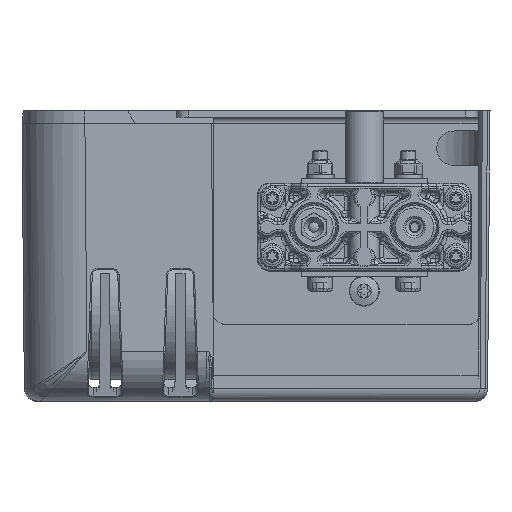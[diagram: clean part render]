
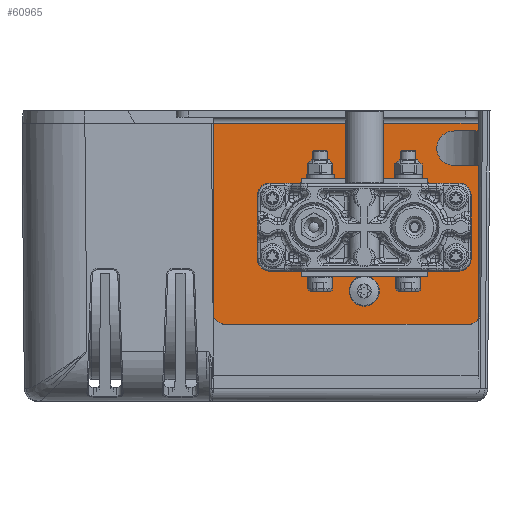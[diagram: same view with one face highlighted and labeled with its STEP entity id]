
A CAD part, left-side view. The second image highlights one B-rep face of the part: STEP entity #60965.
In plain terms, the highlighted planar face has unit normal (-1, 0, 0) as drawn and (0, 0, 1) by its records, which use the part's own axes.
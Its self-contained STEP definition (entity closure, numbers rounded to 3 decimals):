
#6271=LINE('',#117772,#8791);
#6272=LINE('',#117785,#8792);
#6273=LINE('',#117786,#8793);
#6274=LINE('',#117788,#8794);
#6275=LINE('',#117790,#8795);
#6276=LINE('',#117792,#8796);
#6277=LINE('',#117794,#8797);
#8791=VECTOR('',#72628,1000.);
#8792=VECTOR('',#72641,1000.);
#8793=VECTOR('',#72642,1000.);
#8794=VECTOR('',#72643,1000.);
#8795=VECTOR('',#72644,1000.);
#8796=VECTOR('',#72645,1000.);
#8797=VECTOR('',#72646,1000.);
#17179=ORIENTED_EDGE('',*,*,#30930,.F.);
#17180=ORIENTED_EDGE('',*,*,#30931,.F.);
#17181=ORIENTED_EDGE('',*,*,#30932,.F.);
#17182=ORIENTED_EDGE('',*,*,#30933,.F.);
#17183=ORIENTED_EDGE('',*,*,#30934,.T.);
#17184=ORIENTED_EDGE('',*,*,#30935,.T.);
#17185=ORIENTED_EDGE('',*,*,#30929,.F.);
#17186=ORIENTED_EDGE('',*,*,#30936,.T.);
#17187=ORIENTED_EDGE('',*,*,#30937,.F.);
#17188=ORIENTED_EDGE('',*,*,#30938,.T.);
#17189=ORIENTED_EDGE('',*,*,#30939,.F.);
#17190=ORIENTED_EDGE('',*,*,#30940,.T.);
#30929=EDGE_CURVE('',#38114,#38107,#6271,.T.);
#30930=EDGE_CURVE('',#38115,#38115,#42618,.T.);
#30931=EDGE_CURVE('',#38116,#38116,#42619,.T.);
#30932=EDGE_CURVE('',#38117,#38117,#42620,.T.);
#30933=EDGE_CURVE('',#38118,#38118,#42621,.T.);
#30934=EDGE_CURVE('',#38119,#38120,#42622,.T.);
#30935=EDGE_CURVE('',#38120,#38107,#6272,.T.);
#30936=EDGE_CURVE('',#38114,#38121,#6273,.T.);
#30937=EDGE_CURVE('',#38122,#38121,#6274,.T.);
#30938=EDGE_CURVE('',#38122,#38123,#6275,.T.);
#30939=EDGE_CURVE('',#38124,#38123,#6276,.T.);
#30940=EDGE_CURVE('',#38124,#38119,#6277,.T.);
#38107=VERTEX_POINT('',#117758);
#38114=VERTEX_POINT('',#117771);
#38115=VERTEX_POINT('',#117775);
#38116=VERTEX_POINT('',#117777);
#38117=VERTEX_POINT('',#117779);
#38118=VERTEX_POINT('',#117781);
#38119=VERTEX_POINT('',#117783);
#38120=VERTEX_POINT('',#117784);
#38121=VERTEX_POINT('',#117787);
#38122=VERTEX_POINT('',#117789);
#38123=VERTEX_POINT('',#117791);
#38124=VERTEX_POINT('',#117793);
#42618=CIRCLE('',#65106,12.5);
#42619=CIRCLE('',#65107,3.4);
#42620=CIRCLE('',#65108,3.4);
#42621=CIRCLE('',#65109,3.4);
#42622=CIRCLE('',#65110,6.9);
#45298=EDGE_LOOP('',(#17179));
#45299=EDGE_LOOP('',(#17180));
#45300=EDGE_LOOP('',(#17181));
#45301=EDGE_LOOP('',(#17182));
#45302=EDGE_LOOP('',(#17183,#17184,#17185,#17186,#17187,#17188,#17189,#17190));
#49343=FACE_BOUND('',#45298,.T.);
#49344=FACE_BOUND('',#45299,.T.);
#49345=FACE_BOUND('',#45300,.T.);
#49346=FACE_BOUND('',#45301,.T.);
#49347=FACE_BOUND('',#45302,.T.);
#52278=PLANE('',#65105);
#60965=ADVANCED_FACE('',(#49343,#49344,#49345,#49346,#49347),#52278,.F.);
#65105=AXIS2_PLACEMENT_3D('',#117773,#72629,#72630);
#65106=AXIS2_PLACEMENT_3D('',#117774,#72631,#72632);
#65107=AXIS2_PLACEMENT_3D('',#117776,#72633,#72634);
#65108=AXIS2_PLACEMENT_3D('',#117778,#72635,#72636);
#65109=AXIS2_PLACEMENT_3D('',#117780,#72637,#72638);
#65110=AXIS2_PLACEMENT_3D('',#117782,#72639,#72640);
#72628=DIRECTION('',(0.,-1.,0.));
#72629=DIRECTION('',(0.,0.,-1.));
#72630=DIRECTION('',(-1.,0.,0.));
#72631=DIRECTION('',(0.,0.,1.));
#72632=DIRECTION('',(1.,0.,0.));
#72633=DIRECTION('',(0.,0.,1.));
#72634=DIRECTION('',(1.,0.,0.));
#72635=DIRECTION('',(0.,0.,1.));
#72636=DIRECTION('',(1.,0.,0.));
#72637=DIRECTION('',(0.,0.,1.));
#72638=DIRECTION('',(1.,0.,0.));
#72639=DIRECTION('',(0.,0.,-1.));
#72640=DIRECTION('',(-1.,0.,0.));
#72641=DIRECTION('',(1.,0.,0.));
#72642=DIRECTION('',(-1.,0.,0.));
#72643=DIRECTION('',(0.,1.,0.));
#72644=DIRECTION('',(1.,0.,0.));
#72645=DIRECTION('',(0.,-1.,0.));
#72646=DIRECTION('',(-1.,0.,0.));
#117758=CARTESIAN_POINT('',(102.,53.75,2.5));
#117771=CARTESIAN_POINT('',(102.,56.75,2.5));
#117772=CARTESIAN_POINT('',(102.,60.25,2.5));
#117773=CARTESIAN_POINT('',(102.,60.25,2.5));
#117774=CARTESIAN_POINT('',(56.75,15.5,2.5));
#117775=CARTESIAN_POINT('',(69.25,15.5,2.5));
#117776=CARTESIAN_POINT('',(34.753,28.2,2.5));
#117777=CARTESIAN_POINT('',(38.153,28.2,2.5));
#117778=CARTESIAN_POINT('',(78.747,28.2,2.5));
#117779=CARTESIAN_POINT('',(82.147,28.2,2.5));
#117780=CARTESIAN_POINT('',(56.75,-9.9,2.5));
#117781=CARTESIAN_POINT('',(60.15,-9.9,2.5));
#117782=CARTESIAN_POINT('',(92.5,46.85,2.5));
#117783=CARTESIAN_POINT('',(92.5,39.95,2.5));
#117784=CARTESIAN_POINT('',(92.5,53.75,2.5));
#117785=CARTESIAN_POINT('',(102.,53.75,2.5));
#117786=CARTESIAN_POINT('',(312.5,56.75,2.5));
#117787=CARTESIAN_POINT('',(-3.25,56.75,2.5));
#117788=CARTESIAN_POINT('',(-3.25,60.25,2.5));
#117789=CARTESIAN_POINT('',(-3.25,-43.3,2.5));
#117790=CARTESIAN_POINT('',(-75.74,-43.3,2.5));
#117791=CARTESIAN_POINT('',(102.,-43.3,2.5));
#117792=CARTESIAN_POINT('',(102.,60.25,2.5));
#117793=CARTESIAN_POINT('',(102.,39.95,2.5));
#117794=CARTESIAN_POINT('',(102.,39.95,2.5));
